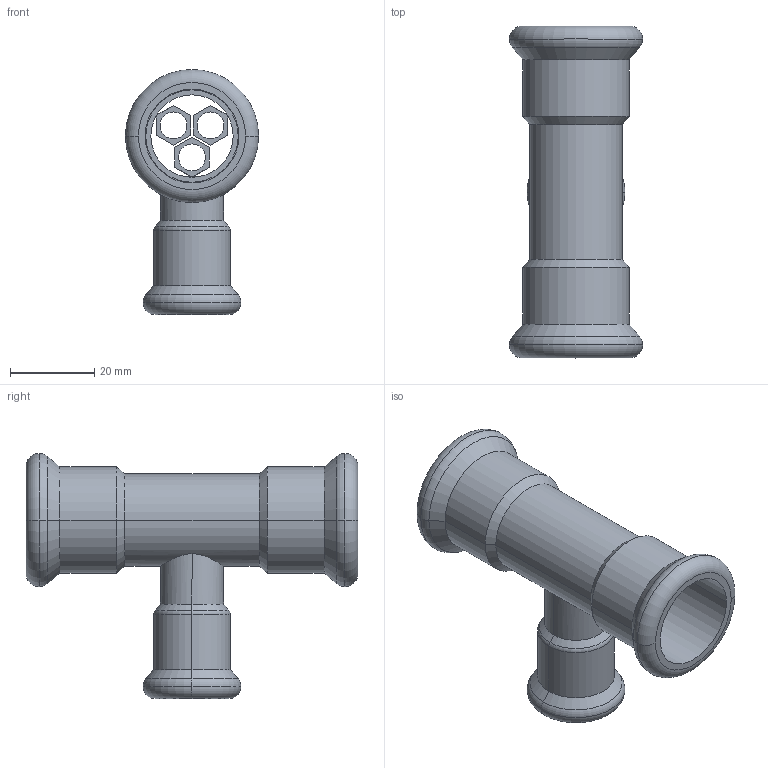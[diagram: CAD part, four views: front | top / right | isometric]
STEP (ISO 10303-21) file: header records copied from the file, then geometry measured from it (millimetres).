
FILE_DESCRIPTION(('OneSpaceDesigner STEP Export'),'2;1');
FILE_NAME('R2715 22x15x22.stp','2010-06-10T 8:56:10',(''),(''),'OneSpace Designer STEP processor for AP214 (Solid Model)','OneSpace Modeling 15.00A 14-Mar-2007 (C) CoCreate Software GmbH','');
FILE_SCHEMA(('AUTOMOTIVE_DESIGN { 1 0 10303 214 1 1 1 1 }'));
Length unit declared in the file: millimetre
Products named in the file (2): R2715_22x15x22
Assembly tree (1 placements, depth 2):
  R2715_22x15x22
    R2715_22x15x22
Bounding box: 31.7 x 79 x 58.35 mm (x, y, z)
Volume: 14420 mm3; surface area: 17273.5 mm2
Topology: 1 solids, 1 shells, 170 faces, 421 edges, 270 vertices
Faces by surface type: plane 90, cylinder 54, torus 14, cone 12
Entity records: 5521 total; most frequent: CARTESIAN_POINT 1708, ORIENTED_EDGE 842, DIRECTION 691, EDGE_CURVE 421, VERTEX_POINT 270, VECTOR 263, LINE 263, AXIS2_PLACEMENT_3D 214
